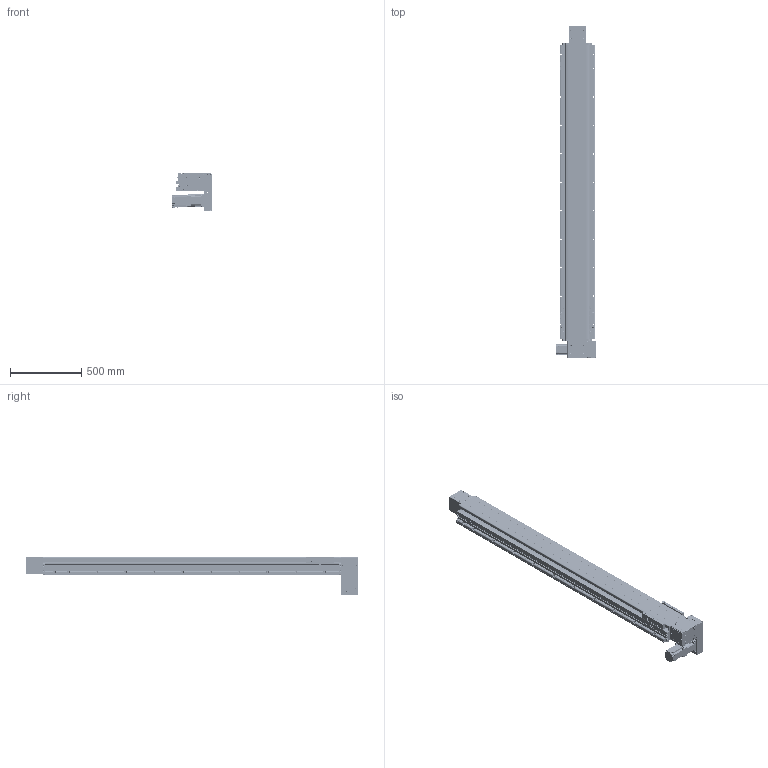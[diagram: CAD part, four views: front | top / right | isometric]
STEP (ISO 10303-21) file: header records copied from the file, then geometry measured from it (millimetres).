
FILE_DESCRIPTION(/* description */ (''),/* implementation_level */ '2;1');
FILE_NAME(/* name */ '\\192.168.0.160\disk1\HAN SHIN Master\B-설계부문\C-표준\B-2024년\BC02-표준도면\+로봇 개선표준도면\홈페이지 표준 도면\홈페이지 최종 작업 폴더\3D\HSB\HSB210\HSB210-DR7G-N-1800-L.stp',/* time_stamp */ '2025-01-06T18:26:38+09:00',/* author */ ('user'),/* organization */ (''),/* preprocessor_version */ 'ST-DEVELOPER v18.1',/* originating_system */ 'Autodesk Inventor 2022',/* authorisation */ '');
FILE_SCHEMA (('AUTOMOTIVE_DESIGN { 1 0 10303 214 3 1 1 }'));
Products named in the file (37): HSB210-DR7G-N-0500-L; HSB210 BASE - 2000ST; HSB210 FORNT HOUSUNG-Connecting Shaft; HSB210 FRONT COVER; REAR HOUSUNG-1-R1; HSB160 ARC COVER; HSB160 REAR SHAFT-2; REAR SHAFT--2; 6004ZZ; 6004ZZ Outer ring; 6004ZZ Shield1; 6004ZZ Inner ring; 6004ZZ Ball; 6004ZZ Shield2; UPCOVER; SIDE COVER; hsr_ftht_A-M6F_grease_nipple_joint; NIPPLE CAP(신규); TENSION PLATE; HG90STOPPER - 27L; HSB210 TABLE (TEST); HSB160 BEARING OVER; PGX90-H-1_3; hg-kr73_; HSB210 D MOTOR PLATE ASSY; HSB210 D BELT COVER-R1; HG200-R L-BELT COVER; HG200DACRYLCOVER001; HG200DACRYLCOVER003; HG200DACRYLCOVER002; 750W MOTOR PLATE; HSB210 END COVER-1; HSB160 SHAFT-1; 6308ZZ; HR200 SENSOR DOG; SENSOR BRK(EE-SX674A); EE_SX674A
Assembly tree (70 placements, depth 3):
  HSB210-DR7G-N-0500-L
    HSB210 BASE - 2000ST
    HSB210 FRONT COVER  x2
    HSB210 FORNT HOUSUNG-Connecting Shaft
    HSB160 ARC COVER  x4
    REAR HOUSUNG-1-R1
    HSB160 REAR SHAFT-2
    REAR SHAFT--2
    6004ZZ  x2
      6004ZZ Outer ring
      6004ZZ Shield1
      6004ZZ Inner ring
      6004ZZ Ball
      6004ZZ Shield2
    TENSION PLATE  x2
    UPCOVER
    SIDE COVER  x2
    HG90STOPPER - 27L  x4
    NIPPLE CAP(신규)  x4
    hsr_ftht_A-M6F_grease_nipple_joint  x4
    HSB210 TABLE (TEST)
    HSB160 BEARING OVER
    PGX90-H-1_3
    hg-kr73_
    HSB210 D MOTOR PLATE ASSY
      HSB210 D BELT COVER-R1
      HG200-R L-BELT COVER
      HG200DACRYLCOVER001
      HG200DACRYLCOVER002  x2
      HG200DACRYLCOVER003
      750W MOTOR PLATE
    HSB210 END COVER-1
    HSB160 SHAFT-1
    6308ZZ  x2
    SENSOR BRK(EE-SX674A)  x3
    EE_SX674A  x3
    HR200 SENSOR DOG
Bounding box: 284.5 x 2334 x 271.5 mm (x, y, z)
Volume: 21624859.6 mm3; surface area: 4732380.6 mm2
Topology: 131 solids, 133 shells, 8101 faces, 22575 edges, 14903 vertices
Faces by surface type: plane 6093, cylinder 1438, cone 402, sphere 84, torus 59, bspline 25
Full cylindrical faces by diameter (mm): 2.013 x2, 2.459 x50, 3 x8, 3.2 x4, 3.242 x58, 3.4 x22, 3.5 x6, 4.134 x2, 4.2 x16, 4.5 x36, 4.917 x36, 5 x56, 5.1 x1, 5.5 x13, 5.6 x4, 5.9 x4, 6 x15, 6.5 x9, 6.6 x8, 6.647 x52, 6.8 x9, 7 x20, 7.6 x4, 8 x13, 8.433 x2, 9 x46, 9.5 x7, 10 x5, 10.106 x22, 11 x20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
Entity records: 178533 total; most frequent: CARTESIAN_POINT 34648, ORIENTED_EDGE 29792, DIRECTION 28628, EDGE_CURVE 14896, LINE 11480, VECTOR 11480, VERTEX_POINT 9928, AXIS2_PLACEMENT_3D 8574
